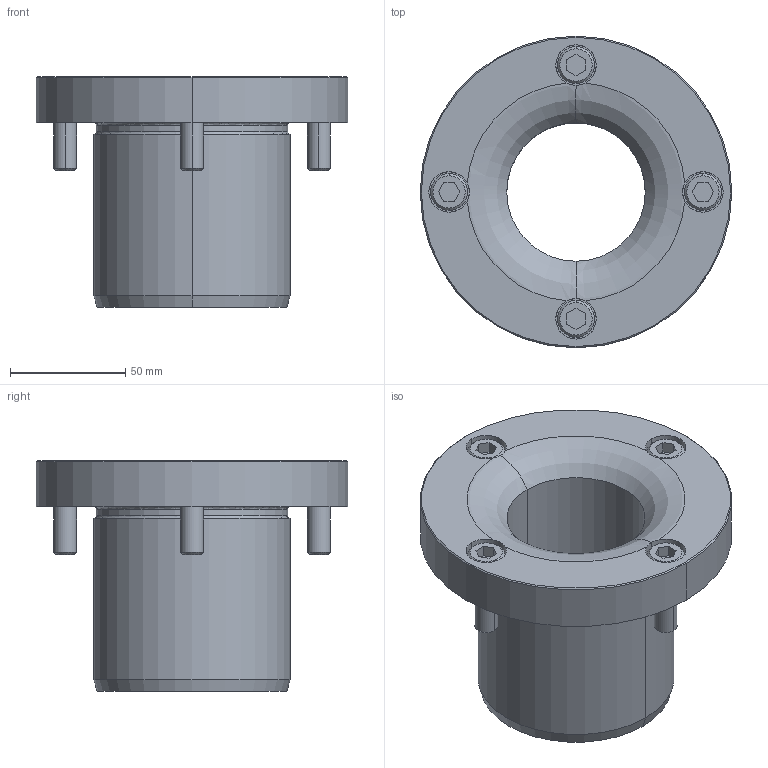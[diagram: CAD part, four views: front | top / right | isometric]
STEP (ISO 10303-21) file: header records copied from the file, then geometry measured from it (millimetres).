
FILE_DESCRIPTION((''),'2;1');
FILE_NAME('','2010-09-07T13:56:30+09:00',('misumi'),(''),'M/STEP i/f 1R2-14','CADmeister v5.1','');
FILE_SCHEMA(('AUTOMOTIVE_DESIGN'));
Length unit declared in the file: millimetre
Products named in the file (1): HGBF60
Bounding box: 135 x 135 x 100 mm (x, y, z)
Volume: 446507 mm3; surface area: 80756.7 mm2
Topology: 5 solids, 5 shells, 115 faces, 260 edges, 164 vertices
Faces by surface type: plane 47, cylinder 40, cone 20, revolution 8
Entity records: 3429 total; most frequent: DIRECTION 616, CARTESIAN_POINT 568, ORIENTED_EDGE 512, EDGE_CURVE 256, AXIS2_PLACEMENT_3D 238, VERTEX_POINT 160, EDGE_LOOP 134, LINE 132
